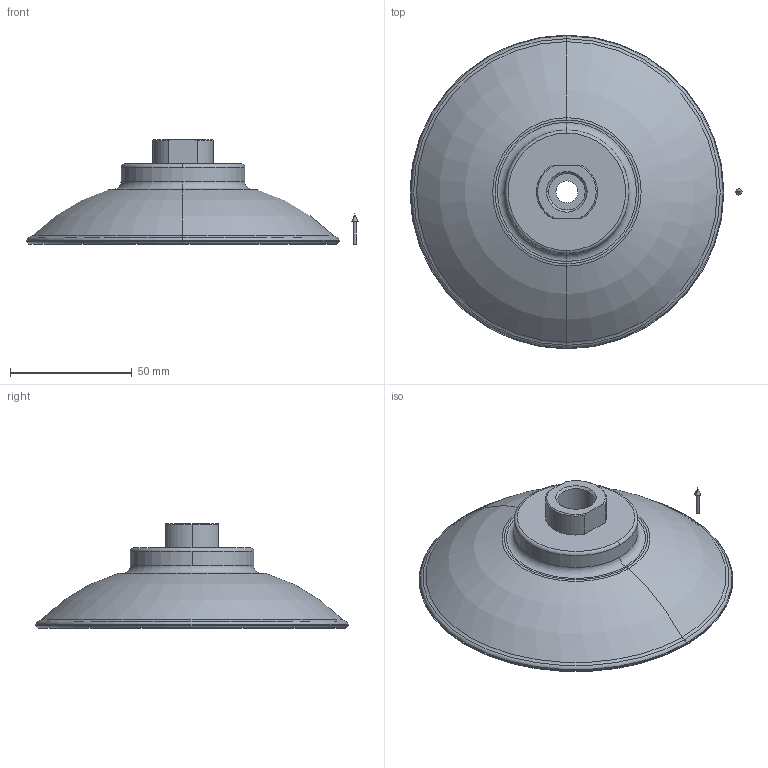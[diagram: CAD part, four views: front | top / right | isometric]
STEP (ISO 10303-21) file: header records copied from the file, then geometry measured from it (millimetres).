
FILE_DESCRIPTION(('STEP AP214'),'1');
FILE_NAME('10_01_01_10518.stp','2020-10-24T00:24:53',('TraceParts'),('TraceParts S.A.'),'Spatial InterOp 3D',' ',' ');
FILE_SCHEMA(('AUTOMOTIVE_DESIGN { 1 0 10303 214 1 1 1 1 }'));
Length unit declared in the file: millimetre
Products named in the file (1): 10_01_01_10518_1
Bounding box: 136.23 x 128.76 x 43 mm (x, y, z)
Volume: 99451 mm3; surface area: 37959.6 mm2
Topology: 2 solids, 2 shells, 119 faces, 288 edges, 179 vertices
Faces by surface type: torus 40, cone 34, cylinder 32, plane 13
Entity records: 4524 total; most frequent: DIRECTION 736, CARTESIAN_POINT 594, ORIENTED_EDGE 572, AXIS2_PLACEMENT_3D 333, EDGE_CURVE 286, CIRCLE 212, VERTEX_POINT 179, EDGE_LOOP 129
